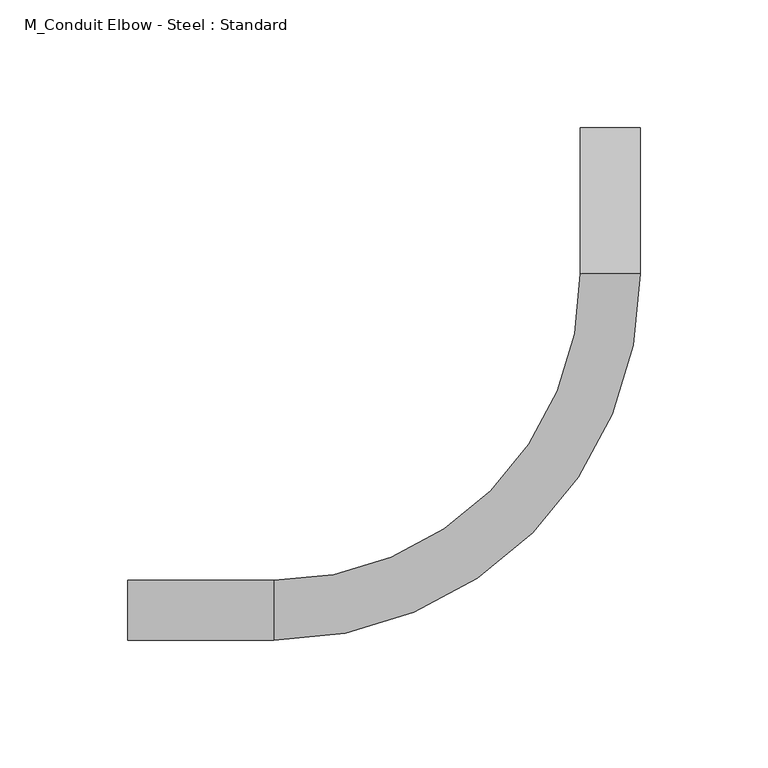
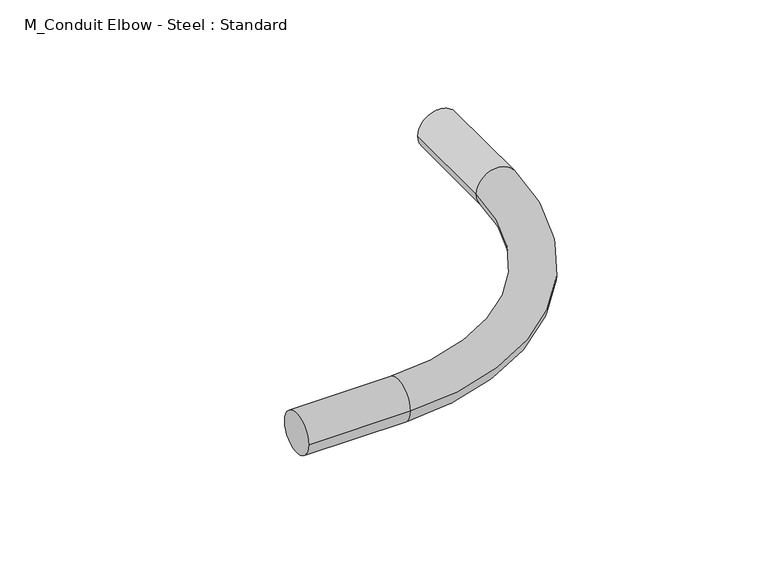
"""IFC4 building model written with IfcOpenShell, lengths in millimetres: cable carrier fitting geometry, M_Conduit Elbow - Steel : Standard."""

from ifc_helpers import new_model, si_unit, point, frame, origin, place, context, project, spatial, circle_curve, ellipse_curve, trimmed, source, transform, mapped, element, save
from ifc_brep_helpers import plane_surface, cylinder_surface, revolved_surface, advanced_brep


def m_conduit_elbow_steel_standard_da78c8d7(model_context):
    return source(origin(), model_context, "Body", "AdvancedBrep", [
        advanced_brep(
        [(-188.9072463, -11.7094, 0.0), (-188.9072463, 11.7094, 0.0), (-131.7572463, -11.7094, 0.0), (-131.7572463, 11.7094, 0.0), (-11.7041464, 131.7577131, 0.0), (11.7146536, 131.7567793, 0.0), (11.7169324, 188.9067792, 0.0), (-11.7018676, 188.907713, 0.0)],
        [
            (0, 1, circle_curve(frame((-188.9072463, 0.0, 0.0), z_axis=(-1.0, 0.0, 0.0), x_axis=(0.0, 1.0, 0.0)), 11.7094)),
            (1, 0, circle_curve(frame((-188.9072463, 0.0, 0.0), z_axis=(-1.0, 0.0, 0.0), x_axis=(0.0, 1.0, 0.0)), 11.7094)),
            (0, 2),
            (2, 3, circle_curve(frame((-131.7572463, 0.0, 0.0), z_axis=(-1.0, 0.0, 0.0), x_axis=(0.0, 1.0, 0.0)), 11.7094)),
            (3, 1),
            (3, 2, circle_curve(frame((-131.7572463, 0.0, 0.0), z_axis=(-1.0, 0.0, 0.0), x_axis=(0.0, 1.0, 0.0)), 11.7094)),
            (4, 3, circle_curve(frame((-131.7572463, 131.7625, 0.0), z_axis=(0.0, 0.0, -1.0), x_axis=(0.0, -1.0, 0.0)), 120.0531)),
            (2, 5, circle_curve(frame((-131.7572463, 131.7625, 0.0), z_axis=(0.0, 0.0, 1.0), x_axis=(0.0, -1.0, 0.0)), 143.4719)),
            (5, 4, circle_curve(frame((0.0052536, 131.7572462, 0.0), z_axis=(-3.987338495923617e-05, -0.9999999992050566, 0.0), x_axis=(-0.9999999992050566, 3.987338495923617e-05, 0.0)), 11.7094)),
            (4, 5, circle_curve(frame((0.0052536, 131.7572462, 0.0), z_axis=(-3.987338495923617e-05, -0.9999999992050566, 0.0), x_axis=(-0.9999999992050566, 3.987338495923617e-05, 0.0)), 11.7094)),
            (6, 7, circle_curve(frame((0.0075324, 188.9072461, 0.0), z_axis=(3.987338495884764e-05, 0.9999999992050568, 0.0), x_axis=(-0.9999999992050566, 3.987338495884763e-05, 0.0)), 11.7094)),
            (7, 6, circle_curve(frame((0.0075324, 188.9072461, 0.0), z_axis=(3.987338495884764e-05, 0.9999999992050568, 0.0), x_axis=(-0.9999999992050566, 3.987338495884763e-05, 0.0)), 11.7094)),
            (5, 6),
            (7, 4),
        ],
        [
            plane_surface(frame((-188.9072463, 0.0, 0.0), z_axis=(-1.0, 0.0, 0.0), x_axis=(0.0, 0.0, 1.0))),
            cylinder_surface(frame((-188.9072463, 0.0, 0.0), z_axis=(-1.0, 0.0, 0.0), x_axis=(0.0, 1.0, 0.0)), 11.7094),
            revolved_surface(trimmed(ellipse_curve(frame((-131.7572463, 0.0, 0.0), z_axis=(-1.0, 0.0, 0.0), x_axis=(0.0, 1.0, 0.0)), 11.7094, 11.7094), [point((-131.7572463, -11.7094, 0.0))], [point((-131.7572463, 11.7094, 0.0))], True, "CARTESIAN"), (-131.7572463, 131.7625, 0.0), (0.0, 0.0, 1.0)),
            revolved_surface(trimmed(ellipse_curve(frame((-131.7572463, 0.0, 0.0), z_axis=(-1.0, 0.0, 0.0), x_axis=(0.0, 1.0, 0.0)), 11.7094, 11.7094), [point((-131.7572463, 11.7094, 0.0))], [point((-131.7572463, -11.7094, 0.0))], True, "CARTESIAN"), (-131.7572463, 131.7625, 0.0), (0.0, 0.0, 1.0)),
            plane_surface(frame((0.0075324, 188.9072461, 0.0), z_axis=(3.987338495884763e-05, 0.9999999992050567, 0.0), x_axis=(0.0, 0.0, 1.0))),
            cylinder_surface(frame((0.0052536, 131.7572462, 0.0), z_axis=(-3.987338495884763e-05, -0.9999999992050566, 0.0), x_axis=(-0.9999999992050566, 3.987338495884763e-05, 0.0)), 11.7094),
        ],
        [
            (0, [[1, 2]]),
            (1, [[-1, 3, 4, 5]]),
            (1, [[-2, -5, 6, -3]]),
            (2, [[7, -4, 8, 9]]),
            (3, [[-8, -6, -7, 10]]),
            (4, [[11, 12]]),
            (5, [[-9, 13, -12, 14]]),
            (5, [[-10, -14, -11, -13]]),
        ],
    ),
    ])


if __name__ == "__main__":
    model = new_model("IFC4")
    model_context = context("Model", 3, world=origin())
    ifc_project = project(units=[si_unit("LENGTHUNIT", "METRE", prefix="MILLI")], contexts=[model_context])
    site = spatial("IfcSite", under=ifc_project)
    building = spatial("IfcBuilding", under=site)
    placement = place(None, origin())
    m_conduit_elbow_steel_standard_shape = m_conduit_elbow_steel_standard_da78c8d7(model_context)
    element("IfcCableCarrierFitting", 1, ObjectType="M_Conduit Elbow - Steel : Standard", at=placement, inside=building, context=model_context, shape_type="MappedRepresentation", body=[
        mapped(m_conduit_elbow_steel_standard_shape, transform((0.0, 0.0, 0.0), x_axis=(1.0, 0.0, 0.0), y_axis=(0.0, 1.0, 0.0), z_axis=(0.0, 0.0, 1.0))),
    ])
    save(model, "model.ifc")
